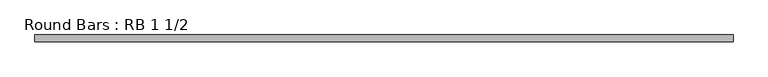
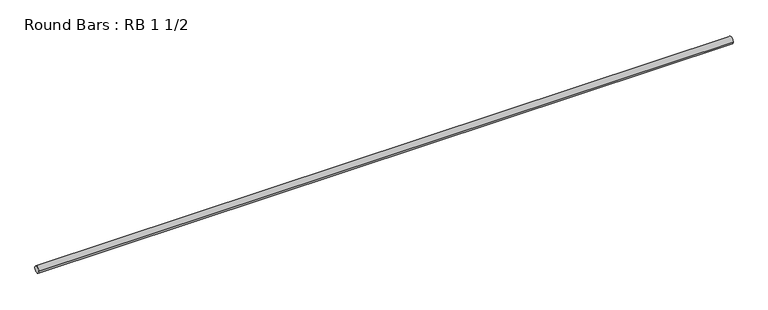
"""IFC4 building model written with IfcOpenShell, lengths in millimetres: member geometry, Round Bars : RB 1 1/2."""

from ifc_helpers import new_model, si_unit, point, frame, origin, origin_2d, place, context, project, spatial, circle_curve, trimmed, segment, composite_curve, outline, extrude, source, transform, mapped, element, save


def round_bars_rb_1_1_2_aa762c7a(model_context):
    return source(origin(), model_context, "Body", "SweptSolid", [
        extrude(outline(composite_curve([segment(trimmed(circle_curve(origin_2d(), 19.05), [point((19.05, 0.0))], [point((-19.05, 0.0))], False, "CARTESIAN"), True, "CONTINUOUS"), segment(trimmed(circle_curve(origin_2d(), 19.05), [point((-19.05, 0.0))], [point((19.05, 0.0))], False, "CARTESIAN"), True, "CONTINUOUS")], self_intersect=False)), frame((-1843.9307292, 0.0, 0.0), z_axis=(1.0, 0.0, 0.0), x_axis=(0.0, 1.0, 0.0)), (0.0, 0.0, 1.0), 3888.1675827),
    ])


if __name__ == "__main__":
    model = new_model("IFC4")
    model_context = context("Model", 3, world=origin())
    ifc_project = project(units=[si_unit("LENGTHUNIT", "METRE", prefix="MILLI")], contexts=[model_context])
    site = spatial("IfcSite", under=ifc_project)
    building = spatial("IfcBuilding", under=site)
    placement = place(None, origin())
    round_bars_rb_1_1_2_shape = round_bars_rb_1_1_2_aa762c7a(model_context)
    element("IfcMember", 1, ObjectType="Round Bars : RB 1 1/2", at=placement, inside=building, context=model_context, shape_type="MappedRepresentation", body=[
        mapped(round_bars_rb_1_1_2_shape, transform((0.0, 0.0, 0.0), x_axis=(1.0, 0.0, 0.0), y_axis=(0.0, 1.0, 0.0), z_axis=(0.0, 0.0, 1.0))),
    ])
    save(model, "model.ifc")
